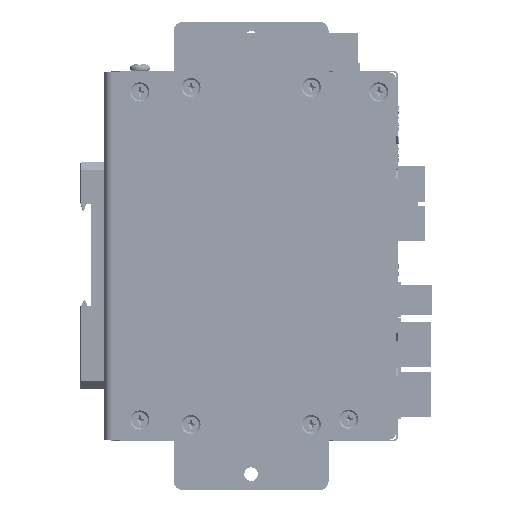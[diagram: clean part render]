
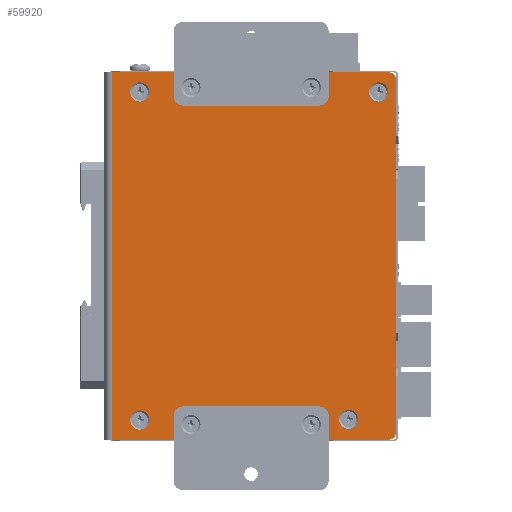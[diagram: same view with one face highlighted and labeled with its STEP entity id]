
A CAD part, left-side view. The second image highlights one B-rep face of the part: STEP entity #59920.
In plain terms, the highlighted planar face has unit normal (-1, 0, 0).
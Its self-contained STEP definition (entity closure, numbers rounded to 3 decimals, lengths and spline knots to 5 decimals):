
#3459=CIRCLE('',#72217,0.00324);
#3460=CIRCLE('',#72218,0.00324);
#3461=CIRCLE('',#72219,0.00324);
#3462=CIRCLE('',#72220,0.00324);
#3463=CIRCLE('',#72221,0.00324);
#3464=CIRCLE('',#72222,0.00324);
#3465=CIRCLE('',#72223,0.00324);
#3466=CIRCLE('',#72224,0.00324);
#3467=CIRCLE('',#72225,0.00254);
#3468=CIRCLE('',#72226,0.00254);
#9408=LINE('',#113236,#15400);
#9412=LINE('',#113245,#15404);
#9418=LINE('',#113259,#15410);
#9420=LINE('',#113281,#15412);
#15400=VECTOR('',#87573,1.);
#15404=VECTOR('',#87579,1.);
#15410=VECTOR('',#87587,1.);
#15412=VECTOR('',#87611,1.);
#31310=ORIENTED_EDGE('',*,*,#40165,.F.);
#31311=ORIENTED_EDGE('',*,*,#40166,.F.);
#31312=ORIENTED_EDGE('',*,*,#40167,.F.);
#31313=ORIENTED_EDGE('',*,*,#40168,.F.);
#31314=ORIENTED_EDGE('',*,*,#40169,.F.);
#31315=ORIENTED_EDGE('',*,*,#40170,.F.);
#31316=ORIENTED_EDGE('',*,*,#40171,.F.);
#31317=ORIENTED_EDGE('',*,*,#40172,.F.);
#31318=ORIENTED_EDGE('',*,*,#40163,.F.);
#31319=ORIENTED_EDGE('',*,*,#40173,.T.);
#31320=ORIENTED_EDGE('',*,*,#40153,.T.);
#31321=ORIENTED_EDGE('',*,*,#40174,.T.);
#31322=ORIENTED_EDGE('',*,*,#40157,.T.);
#31323=ORIENTED_EDGE('',*,*,#40175,.F.);
#40153=EDGE_CURVE('',#45992,#45993,#9408,.T.);
#40157=EDGE_CURVE('',#45996,#45997,#9412,.T.);
#40163=EDGE_CURVE('',#46002,#46003,#9418,.T.);
#40165=EDGE_CURVE('',#46004,#46004,#3459,.T.);
#40166=EDGE_CURVE('',#46005,#46005,#3460,.T.);
#40167=EDGE_CURVE('',#46006,#46006,#3461,.T.);
#40168=EDGE_CURVE('',#46007,#46007,#3462,.T.);
#40169=EDGE_CURVE('',#46008,#46008,#3463,.T.);
#40170=EDGE_CURVE('',#46009,#46009,#3464,.T.);
#40171=EDGE_CURVE('',#46010,#46010,#3465,.T.);
#40172=EDGE_CURVE('',#46011,#46011,#3466,.T.);
#40173=EDGE_CURVE('',#46002,#45992,#3467,.T.);
#40174=EDGE_CURVE('',#45993,#45996,#3468,.T.);
#40175=EDGE_CURVE('',#46003,#45997,#9420,.F.);
#45992=VERTEX_POINT('',#113237);
#45993=VERTEX_POINT('',#113238);
#45996=VERTEX_POINT('',#113246);
#45997=VERTEX_POINT('',#113247);
#46002=VERTEX_POINT('',#113258);
#46003=VERTEX_POINT('',#113260);
#46004=VERTEX_POINT('',#113264);
#46005=VERTEX_POINT('',#113266);
#46006=VERTEX_POINT('',#113268);
#46007=VERTEX_POINT('',#113270);
#46008=VERTEX_POINT('',#113272);
#46009=VERTEX_POINT('',#113274);
#46010=VERTEX_POINT('',#113276);
#46011=VERTEX_POINT('',#113278);
#50453=EDGE_LOOP('',(#31310));
#50454=EDGE_LOOP('',(#31311));
#50455=EDGE_LOOP('',(#31312));
#50456=EDGE_LOOP('',(#31313));
#50457=EDGE_LOOP('',(#31314));
#50458=EDGE_LOOP('',(#31315));
#50459=EDGE_LOOP('',(#31316));
#50460=EDGE_LOOP('',(#31317));
#50461=EDGE_LOOP('',(#31318,#31319,#31320,#31321,#31322,#31323));
#54517=FACE_BOUND('',#50453,.T.);
#54518=FACE_BOUND('',#50454,.T.);
#54519=FACE_BOUND('',#50455,.T.);
#54520=FACE_BOUND('',#50456,.T.);
#54521=FACE_BOUND('',#50457,.T.);
#54522=FACE_BOUND('',#50458,.T.);
#54523=FACE_BOUND('',#50459,.T.);
#54524=FACE_BOUND('',#50460,.T.);
#54525=FACE_BOUND('',#50461,.T.);
#56848=PLANE('',#72216);
#59920=ADVANCED_FACE('',(#54517,#54518,#54519,#54520,#54521,#54522,#54523,
#54524,#54525),#56848,.T.);
#72216=AXIS2_PLACEMENT_3D('',#113262,#87589,#87590);
#72217=AXIS2_PLACEMENT_3D('',#113263,#87591,#87592);
#72218=AXIS2_PLACEMENT_3D('',#113265,#87593,#87594);
#72219=AXIS2_PLACEMENT_3D('',#113267,#87595,#87596);
#72220=AXIS2_PLACEMENT_3D('',#113269,#87597,#87598);
#72221=AXIS2_PLACEMENT_3D('',#113271,#87599,#87600);
#72222=AXIS2_PLACEMENT_3D('',#113273,#87601,#87602);
#72223=AXIS2_PLACEMENT_3D('',#113275,#87603,#87604);
#72224=AXIS2_PLACEMENT_3D('',#113277,#87605,#87606);
#72225=AXIS2_PLACEMENT_3D('',#113279,#87607,#87608);
#72226=AXIS2_PLACEMENT_3D('',#113280,#87609,#87610);
#87573=DIRECTION('',(0.,0.,1.));
#87579=DIRECTION('',(0.,1.,0.));
#87587=DIRECTION('',(0.,1.,0.));
#87589=DIRECTION('',(-1.,0.,0.));
#87590=DIRECTION('',(0.,0.,1.));
#87591=DIRECTION('',(-1.,0.,0.));
#87592=DIRECTION('',(0.,0.,1.));
#87593=DIRECTION('',(-1.,0.,0.));
#87594=DIRECTION('',(0.,0.,1.));
#87595=DIRECTION('',(-1.,0.,0.));
#87596=DIRECTION('',(0.,0.,1.));
#87597=DIRECTION('',(-1.,0.,0.));
#87598=DIRECTION('',(0.,0.,1.));
#87599=DIRECTION('',(-1.,0.,0.));
#87600=DIRECTION('',(0.,0.,1.));
#87601=DIRECTION('',(-1.,0.,0.));
#87602=DIRECTION('',(0.,0.,1.));
#87603=DIRECTION('',(-1.,0.,0.));
#87604=DIRECTION('',(0.,0.,1.));
#87605=DIRECTION('',(-1.,0.,0.));
#87606=DIRECTION('',(0.,0.,1.));
#87607=DIRECTION('',(-1.,0.,0.));
#87608=DIRECTION('',(0.,0.,1.));
#87609=DIRECTION('',(-1.,0.,0.));
#87610=DIRECTION('',(0.,0.,1.));
#87611=DIRECTION('',(0.,0.,-1.));
#113236=CARTESIAN_POINT('',(-0.01524,-0.09703,0.));
#113237=CARTESIAN_POINT('',(-0.01524,-0.09703,-0.05944));
#113238=CARTESIAN_POINT('',(-0.01524,-0.09703,0.05944));
#113245=CARTESIAN_POINT('',(-0.01524,-0.09703,0.06198));
#113246=CARTESIAN_POINT('',(-0.01524,-0.09449,0.06198));
#113247=CARTESIAN_POINT('',(-0.01524,-0.00102,0.06198));
#113258=CARTESIAN_POINT('',(-0.01524,-0.09449,-0.06198));
#113259=CARTESIAN_POINT('',(-0.01524,-0.09703,-0.06198));
#113260=CARTESIAN_POINT('',(-0.01524,-0.00102,-0.06198));
#113262=CARTESIAN_POINT('',(-0.01524,-0.09703,0.));
#113263=CARTESIAN_POINT('',(-0.01524,-0.02769,0.0569));
#113264=CARTESIAN_POINT('',(-0.01524,-0.02769,0.06013));
#113265=CARTESIAN_POINT('',(-0.01524,-0.06833,0.0569));
#113266=CARTESIAN_POINT('',(-0.01524,-0.06833,0.06013));
#113267=CARTESIAN_POINT('',(-0.01524,-0.09106,0.05537));
#113268=CARTESIAN_POINT('',(-0.01524,-0.09106,0.05861));
#113269=CARTESIAN_POINT('',(-0.01524,-0.0809,-0.05512));
#113270=CARTESIAN_POINT('',(-0.01524,-0.0809,-0.05188));
#113271=CARTESIAN_POINT('',(-0.01524,-0.06833,-0.0569));
#113272=CARTESIAN_POINT('',(-0.01524,-0.06833,-0.05366));
#113273=CARTESIAN_POINT('',(-0.01524,-0.02769,-0.0569));
#113274=CARTESIAN_POINT('',(-0.01524,-0.02769,-0.05366));
#113275=CARTESIAN_POINT('',(-0.01524,-0.01041,-0.05537));
#113276=CARTESIAN_POINT('',(-0.01524,-0.01041,-0.05213));
#113277=CARTESIAN_POINT('',(-0.01524,-0.01041,0.05537));
#113278=CARTESIAN_POINT('',(-0.01524,-0.01041,0.05861));
#113279=CARTESIAN_POINT('',(-0.01524,-0.09449,-0.05944));
#113280=CARTESIAN_POINT('',(-0.01524,-0.09449,0.05944));
#113281=CARTESIAN_POINT('',(-0.01524,-0.00102,0.));
